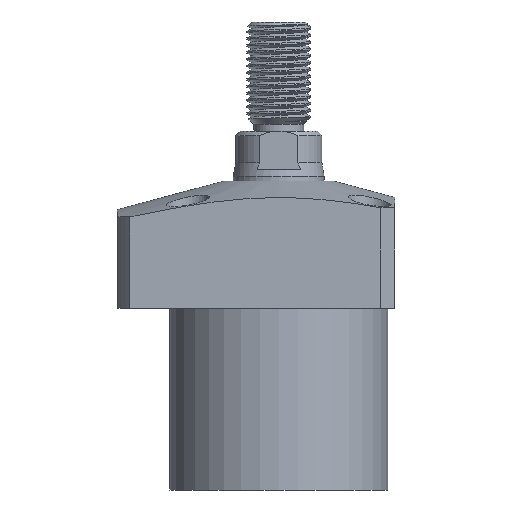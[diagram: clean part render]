
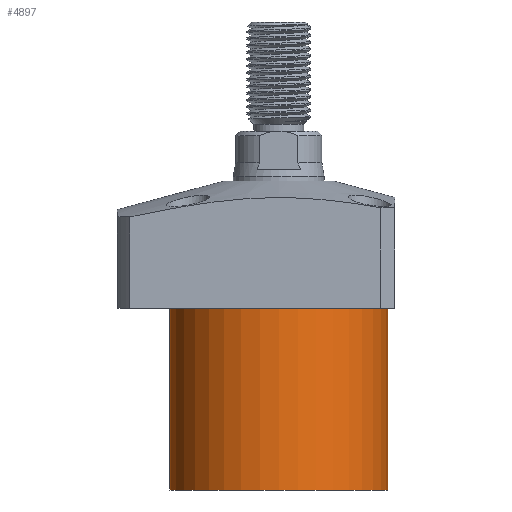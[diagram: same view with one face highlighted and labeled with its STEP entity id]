
A CAD part, front view. The second image highlights one B-rep face of the part: STEP entity #4897.
In plain terms, the highlighted cylindrical face has radius 24 mm (diameter 48 mm), a partial arc.
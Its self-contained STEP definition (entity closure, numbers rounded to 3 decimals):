
#128 = VERTEX_POINT ( 'NONE', #4890 ) ;
#166 = CIRCLE ( 'NONE', #1003, 24. ) ;
#328 = EDGE_CURVE ( 'NONE', #3356, #1571, #1838, .T. ) ;
#492 = DIRECTION ( 'NONE',  ( 0., 0., 1. ) ) ;
#667 = CARTESIAN_POINT ( 'NONE',  ( 24., 0., -54. ) ) ;
#861 = CARTESIAN_POINT ( 'NONE',  ( 0., 0., -54. ) ) ;
#951 = EDGE_LOOP ( 'NONE', ( #1825, #4870, #2728, #1688 ) ) ;
#966 = CARTESIAN_POINT ( 'NONE',  ( -24., 0., -14. ) ) ;
#1003 = AXIS2_PLACEMENT_3D ( 'NONE', #4687, #4347, #2339 ) ;
#1051 = EDGE_CURVE ( 'NONE', #128, #1571, #166, .T. ) ;
#1090 = DIRECTION ( 'NONE',  ( -1., 0., 0. ) ) ;
#1118 = AXIS2_PLACEMENT_3D ( 'NONE', #3459, #1555, #1090 ) ;
#1182 = CYLINDRICAL_SURFACE ( 'NONE', #3409, 24. ) ;
#1234 = EDGE_CURVE ( 'NONE', #3135, #3356, #3152, .T. ) ;
#1555 = DIRECTION ( 'NONE',  ( 0., 0., -1. ) ) ;
#1571 = VERTEX_POINT ( 'NONE', #966 ) ;
#1624 = DIRECTION ( 'NONE',  ( 0., 0., 1. ) ) ;
#1688 = ORIENTED_EDGE ( 'NONE', *, *, #1051, .T. ) ;
#1775 = CARTESIAN_POINT ( 'NONE',  ( -24., 0., -54. ) ) ;
#1825 = ORIENTED_EDGE ( 'NONE', *, *, #328, .F. ) ;
#1838 = LINE ( 'NONE', #2877, #4719 ) ;
#2036 = VECTOR ( 'NONE', #2158, 1000. ) ;
#2158 = DIRECTION ( 'NONE',  ( 0., 0., 1. ) ) ;
#2339 = DIRECTION ( 'NONE',  ( 1., 0., 0. ) ) ;
#2728 = ORIENTED_EDGE ( 'NONE', *, *, #4514, .T. ) ;
#2730 = FACE_OUTER_BOUND ( 'NONE', #951, .T. ) ;
#2877 = CARTESIAN_POINT ( 'NONE',  ( -24., 0., -54. ) ) ;
#3135 = VERTEX_POINT ( 'NONE', #4535 ) ;
#3152 = CIRCLE ( 'NONE', #1118, 24. ) ;
#3356 = VERTEX_POINT ( 'NONE', #1775 ) ;
#3409 = AXIS2_PLACEMENT_3D ( 'NONE', #861, #1624, #4832 ) ;
#3459 = CARTESIAN_POINT ( 'NONE',  ( 0., 0., -54. ) ) ;
#4347 = DIRECTION ( 'NONE',  ( 0., 0., -1. ) ) ;
#4514 = EDGE_CURVE ( 'NONE', #3135, #128, #4940, .T. ) ;
#4535 = CARTESIAN_POINT ( 'NONE',  ( 24., 0., -54. ) ) ;
#4687 = CARTESIAN_POINT ( 'NONE',  ( 0., 0., -14. ) ) ;
#4719 = VECTOR ( 'NONE', #492, 1000. ) ;
#4832 = DIRECTION ( 'NONE',  ( 1., 0., 0. ) ) ;
#4870 = ORIENTED_EDGE ( 'NONE', *, *, #1234, .F. ) ;
#4890 = CARTESIAN_POINT ( 'NONE',  ( 24., 0., -14. ) ) ;
#4897 = ADVANCED_FACE ( 'NONE', ( #2730 ), #1182, .T. ) ;
#4940 = LINE ( 'NONE', #667, #2036 ) ;
